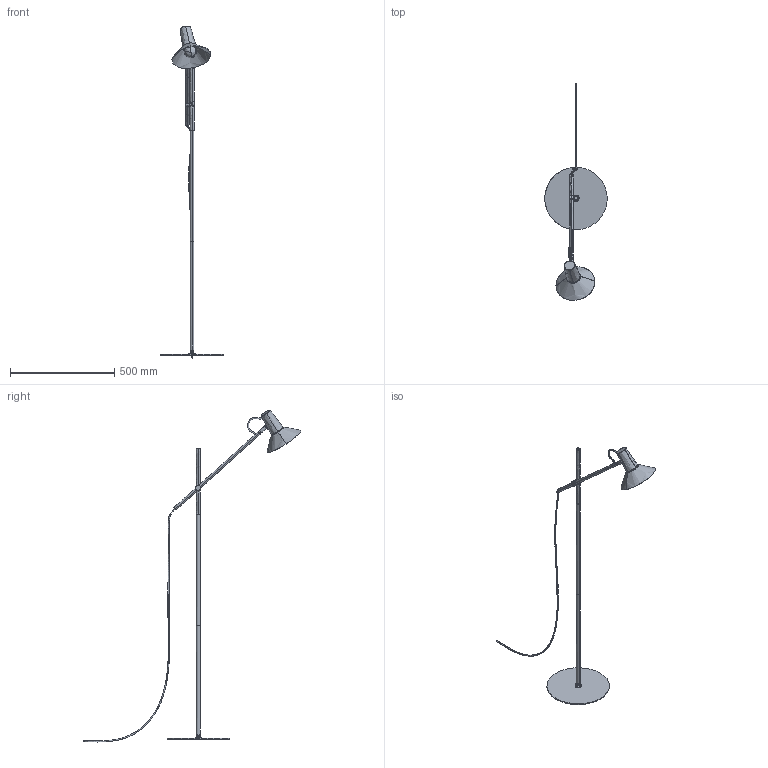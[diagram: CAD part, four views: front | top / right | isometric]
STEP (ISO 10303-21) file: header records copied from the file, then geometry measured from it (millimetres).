
FILE_DESCRIPTION (( 'STEP AP214' ), '1' );
FILE_NAME ('HUDO_P1366.STEP', '2026-06-16T15:09:12', ( '' ), ( '' ), 'SwSTEP 2.0', 'SolidWorks 2023', '' );
FILE_SCHEMA (( 'AUTOMOTIVE_DESIGN' ));
Length unit declared in the file: millimetre
Products named in the file (1): HUDO_P1366
Bounding box: 299.39 x 1043.97 x 1595.04 mm (x, y, z)
Surface area: 525661.1 mm2 (no closed solid volume)
Topology: 0 solids, 24 shells, 343 faces, 890 edges, 576 vertices
Faces by surface type: bspline 233, plane 110
Entity records: 20018 total; most frequent: CARTESIAN_POINT 14474, ORIENTED_EDGE 1772, EDGE_CURVE 886, VERTEX_POINT 576, B_SPLINE_CURVE_WITH_KNOTS 484, EDGE_LOOP 372, ADVANCED_FACE 343, FACE_OUTER_BOUND 343
